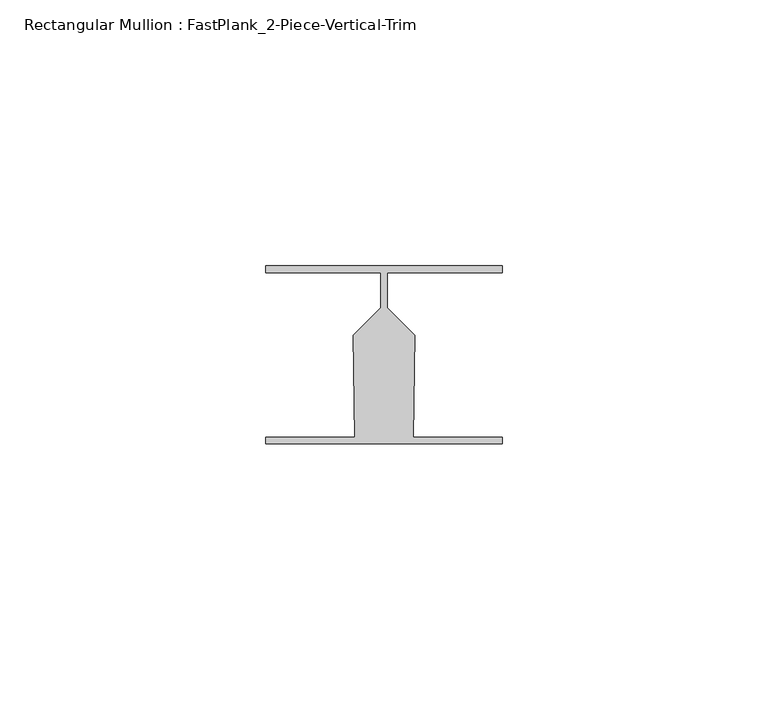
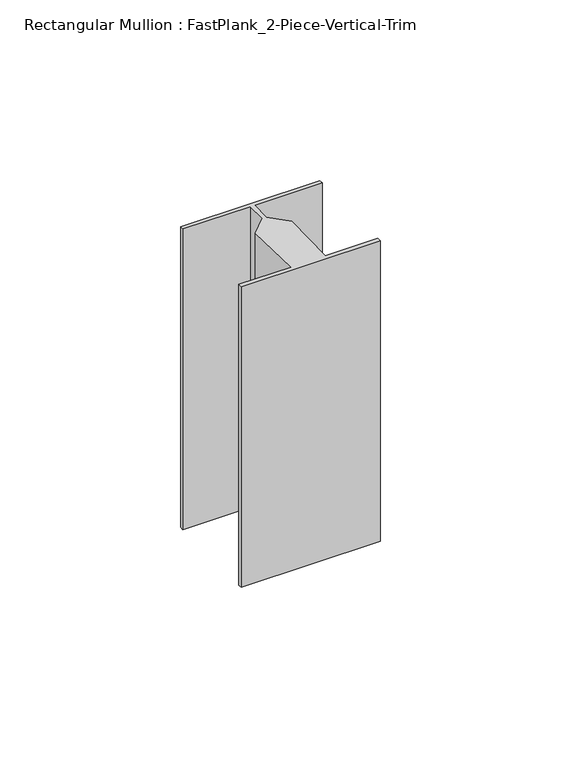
"""IFC4 building model written with IfcOpenShell, lengths in millimetres: member geometry, Rectangular Mullion : FastPlank_2-Piece-Vertical-Trim."""

from ifc_helpers import new_model, si_unit, frame, origin, place, context, project, spatial, polyline, outline, extrude, source, transform, mapped, element, save


def rectangular_mullion_fastplank_2_piece_vertical_trim_b8f20e14(model_context):
    return source(origin(), model_context, "Body", "SweptSolid", [
        extrude(outline(polyline([(22.2251761, 11.8625052), (22.2251761, 10.5625078), (0.6499987, 10.5625078), (0.6499987, 3.992521), (5.8241876, -1.1816679), (5.4899028, -20.332833), (22.2251761, -20.332833), (22.2251761, -21.6328304), (-22.2251761, -21.6328304), (-22.2251761, -20.332833), (-5.4899028, -20.332833), (-5.8241876, -1.1816679), (-0.6499987, 3.992521), (-0.6499987, 10.5625078), (-22.2251761, 10.5625078), (-22.2251761, 11.8625052), (22.2251761, 11.8625052)])), frame((0.0, 0.0, -101.6), z_axis=(0.0, 0.0, 1.0), x_axis=(1.0, 0.0, 0.0)), (0.0, 0.0, 1.0), 101.6),
    ])


if __name__ == "__main__":
    model = new_model("IFC4")
    model_context = context("Model", 3, world=origin())
    ifc_project = project(units=[si_unit("LENGTHUNIT", "METRE", prefix="MILLI")], contexts=[model_context])
    site = spatial("IfcSite", under=ifc_project)
    building = spatial("IfcBuilding", under=site)
    placement = place(None, origin())
    rectangular_mullion_fastplank_2_piece_vertical_trim_shape = rectangular_mullion_fastplank_2_piece_vertical_trim_b8f20e14(model_context)
    element("IfcMember", 1, ObjectType="Rectangular Mullion : FastPlank_2-Piece-Vertical-Trim", at=placement, inside=building, context=model_context, shape_type="MappedRepresentation", body=[
        mapped(rectangular_mullion_fastplank_2_piece_vertical_trim_shape, transform((0.0, 0.0, 0.0), x_axis=(1.0, 0.0, 0.0), y_axis=(0.0, 1.0, 0.0), z_axis=(0.0, 0.0, 1.0))),
    ])
    save(model, "model.ifc")
